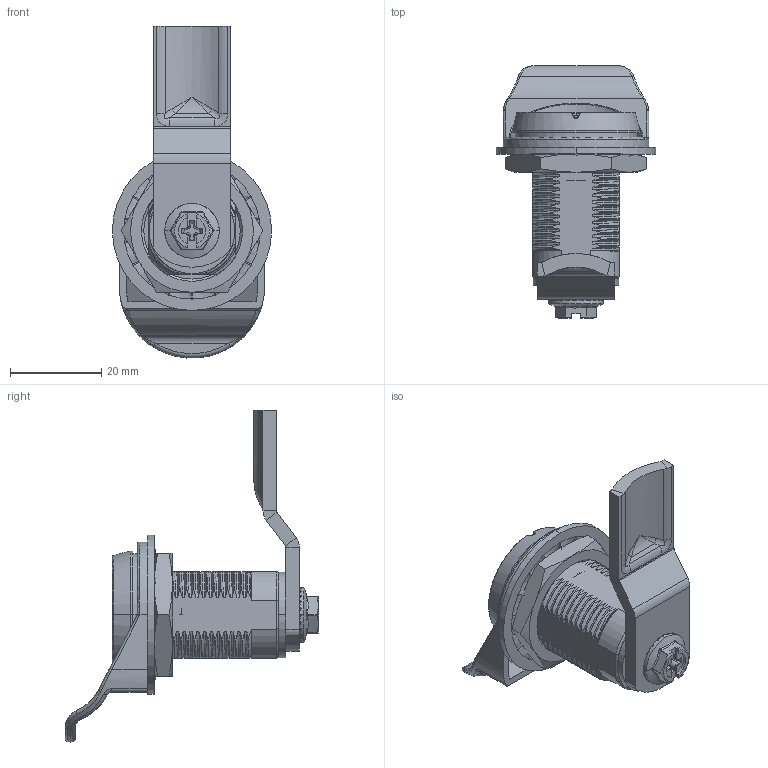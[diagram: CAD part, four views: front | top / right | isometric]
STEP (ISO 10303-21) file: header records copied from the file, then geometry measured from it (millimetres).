
FILE_DESCRIPTION((''),'2;1');
FILE_NAME('MS816-1_ASM','2016-07-15T',('master'),(''),'PRO/ENGINEER BY PARAMETRIC TECHNOLOGY CORPORATION, 2009060','PRO/ENGINEER BY PARAMETRIC TECHNOLOGY CORPORATION, 2009060','');
FILE_SCHEMA(('CONFIG_CONTROL_DESIGN'));
Products named in the file (17): JIZUO-MS816-1; WAIDAOTAO-MS816-1; INSIDE_SET; XIAOZI-MS816-1; ZHUANZHOU-MS816-1; TANHUAN-MS816-1_AF0; SUOXI; DANGQUAN-MS816-1; O-17X2; CEIDIAN-MS705-8B-1D; HP001; S1B45N7; SW6X8; ZIQUAN-M22; LUOMO-MS705; CEIDIAN-MS816-1_AF0; MS816-1_ASM
Assembly tree (16 placements, depth 2):
  MS816-1_ASM
    JIZUO-MS816-1
    WAIDAOTAO-MS816-1
    INSIDE_SET
    XIAOZI-MS816-1
    ZHUANZHOU-MS816-1
    TANHUAN-MS816-1_AF0
    SUOXI
    DANGQUAN-MS816-1
    O-17X2
    CEIDIAN-MS705-8B-1D
    HP001
    S1B45N7
    SW6X8
    ZIQUAN-M22
    LUOMO-MS705
    CEIDIAN-MS816-1_AF0
Bounding box: 35 x 55.6 x 72.95 mm (x, y, z)
Volume: 26149.8 mm3; surface area: 18813.5 mm2
Topology: 16 solids, 16 shells, 1051 faces, 2699 edges, 1691 vertices
Faces by surface type: bspline 417, cylinder 258, plane 232, sphere 52, torus 39, cone 35, extrusion 18
Entity records: 96129 total; most frequent: CARTESIAN_POINT 73511, ORIENTED_EDGE 5398, DIRECTION 3466, EDGE_CURVE 2699, VERTEX_POINT 1691, AXIS2_PLACEMENT_3D 1244, B_SPLINE_CURVE_WITH_KNOTS 1162, EDGE_LOOP 1078
